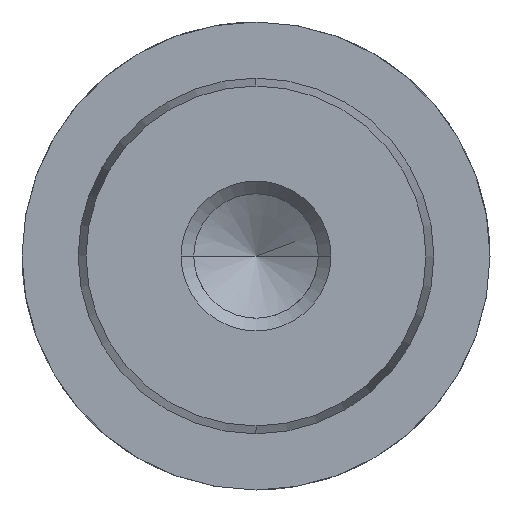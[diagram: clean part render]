
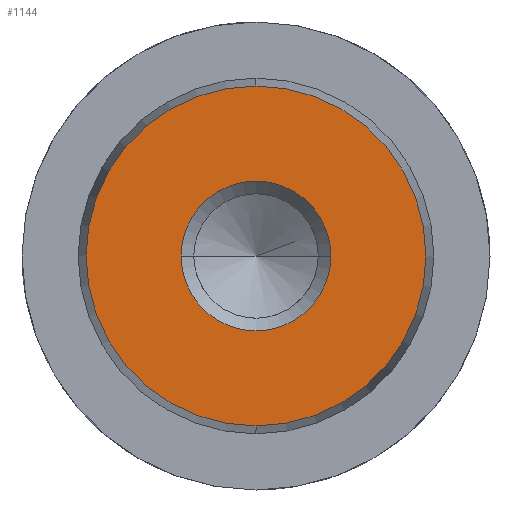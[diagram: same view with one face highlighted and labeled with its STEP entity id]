
A CAD part, left-side view. The second image highlights one B-rep face of the part: STEP entity #1144.
In plain terms, the highlighted planar face has unit normal (-1, 0, 0).
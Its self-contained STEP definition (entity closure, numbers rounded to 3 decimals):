
#1058=CARTESIAN_POINT('Vertex',(0.,0.,-9.078)) ;
#1061=CARTESIAN_POINT('Axis2P3D Location',(0.,0.,0.)) ;
#1065=CARTESIAN_POINT('Vertex',(0.,9.078,0.)) ;
#1068=CARTESIAN_POINT('Axis2P3D Location',(0.,0.,0.)) ;
#1072=CARTESIAN_POINT('Vertex',(0.,0.,9.078)) ;
#1094=CARTESIAN_POINT('Axis2P3D Location',(0.,0.,0.)) ;
#1098=CARTESIAN_POINT('Vertex',(0.,-9.078,0.)) ;
#1101=CARTESIAN_POINT('Axis2P3D Location',(0.,0.,0.)) ;
#1115=CARTESIAN_POINT('Axis2P3D Location',(0.,0.,0.)) ;
#1126=CARTESIAN_POINT('Axis2P3D Location',(0.,0.,0.)) ;
#1130=CARTESIAN_POINT('Vertex',(0.,4.,0.)) ;
#1132=CARTESIAN_POINT('Vertex',(0.,-4.,0.)) ;
#1135=CARTESIAN_POINT('Axis2P3D Location',(0.,0.,0.)) ;
#1062=DIRECTION('Axis2P3D Direction',(1.,0.,-0.)) ;
#1069=DIRECTION('Axis2P3D Direction',(1.,0.,-0.)) ;
#1095=DIRECTION('Axis2P3D Direction',(1.,0.,-0.)) ;
#1102=DIRECTION('Axis2P3D Direction',(1.,0.,-0.)) ;
#1116=DIRECTION('Axis2P3D Direction',(1.,0.,-0.)) ;
#1117=DIRECTION('Axis2P3D XDirection',(-0.,0.,-1.)) ;
#1127=DIRECTION('Axis2P3D Direction',(1.,0.,-0.)) ;
#1136=DIRECTION('Axis2P3D Direction',(1.,0.,-0.)) ;
#1063=AXIS2_PLACEMENT_3D('Circle Axis2P3D',#1061,#1062,$) ;
#1070=AXIS2_PLACEMENT_3D('Circle Axis2P3D',#1068,#1069,$) ;
#1096=AXIS2_PLACEMENT_3D('Circle Axis2P3D',#1094,#1095,$) ;
#1103=AXIS2_PLACEMENT_3D('Circle Axis2P3D',#1101,#1102,$) ;
#1118=AXIS2_PLACEMENT_3D('Plane Axis2P3D',#1115,#1116,#1117) ;
#1128=AXIS2_PLACEMENT_3D('Circle Axis2P3D',#1126,#1127,$) ;
#1137=AXIS2_PLACEMENT_3D('Circle Axis2P3D',#1135,#1136,$) ;
#1121=ORIENTED_EDGE('',*,*,#1067,.F.) ;
#1122=ORIENTED_EDGE('',*,*,#1105,.F.) ;
#1123=ORIENTED_EDGE('',*,*,#1100,.F.) ;
#1124=ORIENTED_EDGE('',*,*,#1074,.F.) ;
#1141=ORIENTED_EDGE('',*,*,#1134,.T.) ;
#1142=ORIENTED_EDGE('',*,*,#1139,.T.) ;
#1143=FACE_BOUND('',#1140,.T.) ;
#1144=ADVANCED_FACE('718-19x200',(#1125,#1143),#1119,.F.) ;
#1064=CIRCLE('generated circle',#1063,9.078) ;
#1071=CIRCLE('generated circle',#1070,9.078) ;
#1097=CIRCLE('generated circle',#1096,9.078) ;
#1104=CIRCLE('generated circle',#1103,9.078) ;
#1129=CIRCLE('generated circle',#1128,4.) ;
#1138=CIRCLE('generated circle',#1137,4.) ;
#1067=EDGE_CURVE('',#1059,#1066,#1064,.T.) ;
#1074=EDGE_CURVE('',#1066,#1073,#1071,.T.) ;
#1100=EDGE_CURVE('',#1073,#1099,#1097,.T.) ;
#1105=EDGE_CURVE('',#1099,#1059,#1104,.T.) ;
#1134=EDGE_CURVE('',#1131,#1133,#1129,.T.) ;
#1139=EDGE_CURVE('',#1133,#1131,#1138,.T.) ;
#1120=EDGE_LOOP('',(#1121,#1122,#1123,#1124)) ;
#1140=EDGE_LOOP('',(#1141,#1142)) ;
#1125=FACE_OUTER_BOUND('',#1120,.T.) ;
#1119=PLANE('Plane',#1118) ;
#1059=VERTEX_POINT('',#1058) ;
#1066=VERTEX_POINT('',#1065) ;
#1073=VERTEX_POINT('',#1072) ;
#1099=VERTEX_POINT('',#1098) ;
#1131=VERTEX_POINT('',#1130) ;
#1133=VERTEX_POINT('',#1132) ;
